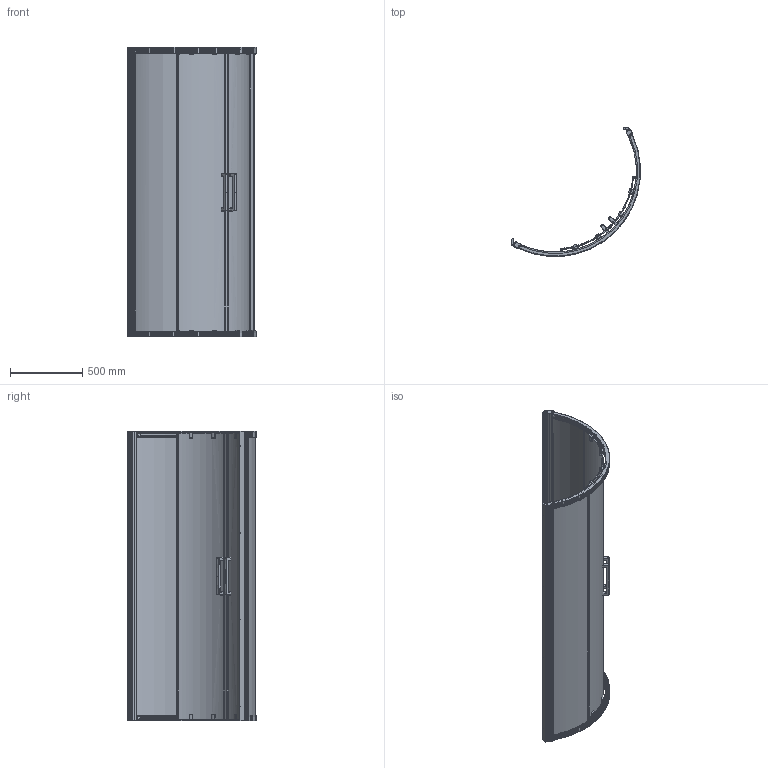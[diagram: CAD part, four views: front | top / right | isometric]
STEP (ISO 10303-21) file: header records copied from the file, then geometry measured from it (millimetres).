
FILE_DESCRIPTION(/* description */ (''),/* implementation_level */ '2;1');
FILE_NAME(/* name */ 'C:\4\! Кубеле\18 NEW\KÜBELE DE018RR\KÜBELE DE018RR-3D.stp',/* time_stamp */ '2019-06-21T13:21:50+03:00',/* author */ ('ChechurovS'),/* organization */ (''),/* preprocessor_version */ 'ST-DEVELOPER v15.2',/* originating_system */ 'Autodesk Inventor 2014',/* authorisation */ '');
FILE_SCHEMA (('CONFIG_CONTROL_DESIGN'));
Products named in the file (1): KÜBELE DE018RR-3D
Bounding box: 888 x 888.1 x 2002.5 mm (x, y, z)
Volume: 26930594.1 mm3; surface area: 7929746.4 mm2
Topology: 15 solids, 16 shells, 3618 faces, 9841 edges, 6220 vertices
Faces by surface type: plane 1766, cylinder 1154, torus 255, bspline 205, cone 126, sphere 112
Full cylindrical faces by diameter (mm): 3 x20, 4 x28, 5 x4, 10 x8
Entity records: 163653 total; most frequent: CARTESIAN_POINT 68600, ORIENTED_EDGE 19466, DIRECTION 18958, EDGE_CURVE 9705, AXIS2_PLACEMENT_3D 6592, VERTEX_POINT 6184, LINE 5774, VECTOR 5774
